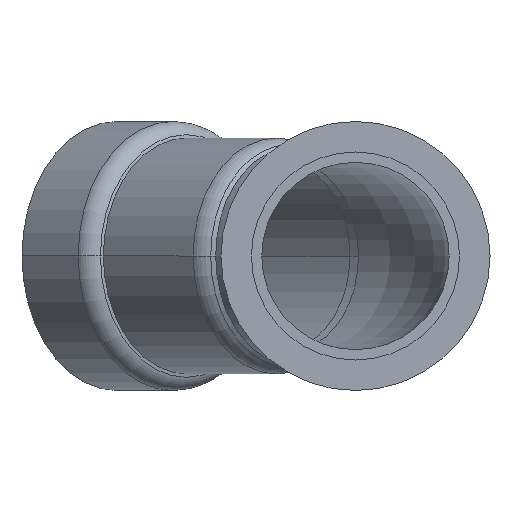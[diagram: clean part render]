
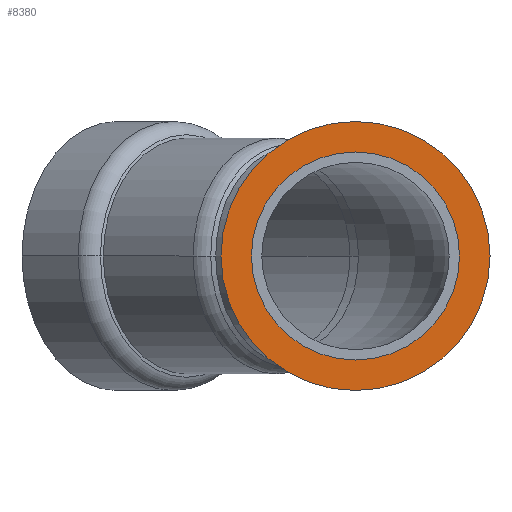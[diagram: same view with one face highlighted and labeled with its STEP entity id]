
A CAD part, left-side view. The second image highlights one B-rep face of the part: STEP entity #8380.
In plain terms, the highlighted planar face has unit normal (-1, 0, 0).
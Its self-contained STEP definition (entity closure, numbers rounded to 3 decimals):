
#6680=CARTESIAN_POINT('',(-122.011,-21.65,0.));
#6690=VERTEX_POINT('',#6680);
#6720=CARTESIAN_POINT('',(-122.011,0.,
0.));
#6730=DIRECTION('',(1.,0.,0.));
#6740=DIRECTION('',(0.,1.,0.));
#6750=AXIS2_PLACEMENT_3D('',#6720,#6730,#6740);
#6760=CIRCLE('',#6750,21.65);
#6770=CARTESIAN_POINT('',(-122.011,21.65,0.));
#6780=VERTEX_POINT('',#6770);
#6790=EDGE_CURVE('',#6690,#6780,#6760,.T.);
#8000=CARTESIAN_POINT('',(-122.011,-28.,0.));
#8010=VERTEX_POINT('',#8000);
#8090=CARTESIAN_POINT('',(-122.011,28.,0.));
#8100=VERTEX_POINT('',#8090);
#8130=CARTESIAN_POINT('',(-122.011,0.,
0.));
#8140=DIRECTION('',(1.,0.,0.));
#8150=DIRECTION('',(0.,1.,0.));
#8160=AXIS2_PLACEMENT_3D('',#8130,#8140,#8150);
#8170=CIRCLE('',#8160,28.);
#8180=EDGE_CURVE('',#8010,#8100,#8170,.T.);
#8230=CARTESIAN_POINT('',(-122.011,26.425,0.))
;
#8240=DIRECTION('',(-1.,0.,0.));
#8250=DIRECTION('',(0.,1.,0.));
#8260=AXIS2_PLACEMENT_3D('',#8230,#8240,#8250);
#8270=PLANE('',#8260);
#8280=EDGE_CURVE('',#6780,#6690,#6760,.T.);
#8290=ORIENTED_EDGE('',*,*,#8280,.T.);
#8300=ORIENTED_EDGE('',*,*,#6790,.T.);
#8310=EDGE_LOOP('',(#8300,#8290));
#8320=FACE_BOUND('',#8310,.T.);
#8330=EDGE_CURVE('',#8100,#8010,#8170,.T.);
#8340=ORIENTED_EDGE('',*,*,#8330,.F.);
#8350=ORIENTED_EDGE('',*,*,#8180,.F.);
#8360=EDGE_LOOP('',(#8350,#8340));
#8370=FACE_OUTER_BOUND('',#8360,.T.);
#8380=ADVANCED_FACE('',(#8320,#8370),#8270,.T.);
